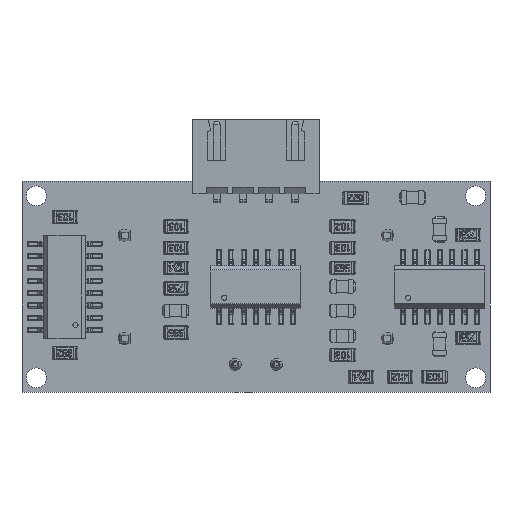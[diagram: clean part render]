
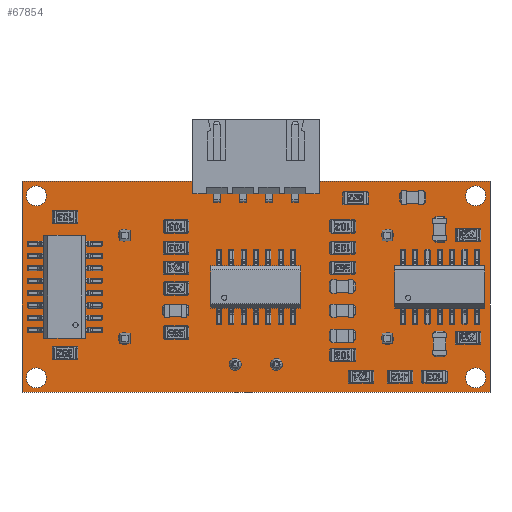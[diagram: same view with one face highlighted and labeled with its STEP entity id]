
A CAD part, front view. The second image highlights one B-rep face of the part: STEP entity #67854.
In plain terms, the highlighted planar face has unit normal (0, -1, 0).
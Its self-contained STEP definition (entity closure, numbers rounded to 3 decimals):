
#1301 = EDGE_LOOP ( 'NONE', ( #130260, #251045, #122099, #221573 ) ) ;
#5284 = CARTESIAN_POINT ( 'NONE',  ( -21.35, 0., 7.875 ) ) ;
#8368 = AXIS2_PLACEMENT_3D ( 'NONE', #237070, #258960, #213849 ) ;
#8747 = FACE_BOUND ( 'NONE', #41200, .T. ) ;
#11166 = DIRECTION ( 'NONE',  ( 0., 1., 0. ) ) ;
#12396 = VERTEX_POINT ( 'NONE', #81494 ) ;
#15319 = EDGE_CURVE ( 'NONE', #66469, #195523, #92039, .T. ) ;
#18544 = CIRCLE ( 'NONE', #51164, 0.975 ) ;
#23051 = EDGE_CURVE ( 'NONE', #162740, #142635, #263769, .T. ) ;
#33783 = ORIENTED_EDGE ( 'NONE', *, *, #151932, .T. ) ;
#35769 = EDGE_CURVE ( 'NONE', #195523, #66469, #166744, .T. ) ;
#41200 = EDGE_LOOP ( 'NONE', ( #33783, #156352 ) ) ;
#43283 = EDGE_CURVE ( 'NONE', #272225, #115277, #168265, .T. ) ;
#46279 = AXIS2_PLACEMENT_3D ( 'NONE', #77269, #53979, #205583 ) ;
#49657 = AXIS2_PLACEMENT_3D ( 'NONE', #267873, #94422, #68228 ) ;
#51164 = AXIS2_PLACEMENT_3D ( 'NONE', #183191, #225472, #272062 ) ;
#52116 = CARTESIAN_POINT ( 'NONE',  ( -21.35, 0., -8.85 ) ) ;
#53979 = DIRECTION ( 'NONE',  ( 0., -1., 0. ) ) ;
#60319 = CARTESIAN_POINT ( 'NONE',  ( -22.75, 0., -10.25 ) ) ;
#62121 = CARTESIAN_POINT ( 'NONE',  ( 21.35, 0., -7.875 ) ) ;
#66469 = VERTEX_POINT ( 'NONE', #62121 ) ;
#66775 = VECTOR ( 'NONE', #82160, 1000. ) ;
#67854 = ADVANCED_FACE ( 'NONE', ( #164816, #253593, #116675, #96292, #8747 ), #72959, .T. ) ;
#68228 = DIRECTION ( 'NONE',  ( 0., 0., -1. ) ) ;
#72043 = CARTESIAN_POINT ( 'NONE',  ( -22.75, 0., 10.25 ) ) ;
#72959 = PLANE ( 'NONE',  #46279 ) ;
#73047 = EDGE_CURVE ( 'NONE', #285957, #12396, #248564, .T. ) ;
#77269 = CARTESIAN_POINT ( 'NONE',  ( 0., 0., 0. ) ) ;
#81494 = CARTESIAN_POINT ( 'NONE',  ( 21.35, 0., 7.875 ) ) ;
#82160 = DIRECTION ( 'NONE',  ( -1., 0., 0. ) ) ;
#91551 = DIRECTION ( 'NONE',  ( 0., 1., 0. ) ) ;
#92039 = CIRCLE ( 'NONE', #8368, 0.975 ) ;
#93942 = VERTEX_POINT ( 'NONE', #266381 ) ;
#94422 = DIRECTION ( 'NONE',  ( 0., 1., 0. ) ) ;
#95822 = DIRECTION ( 'NONE',  ( 0., 0., 1. ) ) ;
#96292 = FACE_BOUND ( 'NONE', #257217, .T. ) ;
#98072 = EDGE_CURVE ( 'NONE', #248100, #240842, #141435, .T. ) ;
#99489 = DIRECTION ( 'NONE',  ( 0., 1., 0. ) ) ;
#104990 = CARTESIAN_POINT ( 'NONE',  ( 22.75, 0., 10.25 ) ) ;
#106328 = LINE ( 'NONE', #241761, #188881 ) ;
#108735 = ORIENTED_EDGE ( 'NONE', *, *, #15319, .T. ) ;
#115277 = VERTEX_POINT ( 'NONE', #143194 ) ;
#115586 = DIRECTION ( 'NONE',  ( 0., 0., -1. ) ) ;
#116572 = ORIENTED_EDGE ( 'NONE', *, *, #23051, .T. ) ;
#116675 = FACE_BOUND ( 'NONE', #246282, .T. ) ;
#120229 = LINE ( 'NONE', #140758, #153228 ) ;
#122099 = ORIENTED_EDGE ( 'NONE', *, *, #240001, .F. ) ;
#129670 = CARTESIAN_POINT ( 'NONE',  ( 21.35, 0., -9.825 ) ) ;
#130260 = ORIENTED_EDGE ( 'NONE', *, *, #252309, .F. ) ;
#132413 = ORIENTED_EDGE ( 'NONE', *, *, #134995, .T. ) ;
#134995 = EDGE_CURVE ( 'NONE', #240842, #248100, #229928, .T. ) ;
#139181 = CARTESIAN_POINT ( 'NONE',  ( -21.35, 0., 9.825 ) ) ;
#140758 = CARTESIAN_POINT ( 'NONE',  ( -22.75, 0., 10.25 ) ) ;
#141435 = CIRCLE ( 'NONE', #248443, 0.975 ) ;
#142352 = AXIS2_PLACEMENT_3D ( 'NONE', #185578, #99489, #115586 ) ;
#142635 = VERTEX_POINT ( 'NONE', #139181 ) ;
#143194 = CARTESIAN_POINT ( 'NONE',  ( -22.75, 0., -10.25 ) ) ;
#143425 = EDGE_LOOP ( 'NONE', ( #278679, #108735 ) ) ;
#146717 = DIRECTION ( 'NONE',  ( 0., 1., 0. ) ) ;
#151932 = EDGE_CURVE ( 'NONE', #12396, #285957, #18544, .T. ) ;
#153228 = VECTOR ( 'NONE', #274727, 1000. ) ;
#156352 = ORIENTED_EDGE ( 'NONE', *, *, #73047, .T. ) ;
#162740 = VERTEX_POINT ( 'NONE', #5284 ) ;
#164816 = FACE_OUTER_BOUND ( 'NONE', #1301, .T. ) ;
#166744 = CIRCLE ( 'NONE', #236585, 0.975 ) ;
#168265 = LINE ( 'NONE', #60319, #66775 ) ;
#175699 = DIRECTION ( 'NONE',  ( 0., 0., -1. ) ) ;
#176442 = DIRECTION ( 'NONE',  ( 0., 0., 1. ) ) ;
#180487 = DIRECTION ( 'NONE',  ( 0., 0., 1. ) ) ;
#183191 = CARTESIAN_POINT ( 'NONE',  ( 21.35, 0., 8.85 ) ) ;
#184291 = DIRECTION ( 'NONE',  ( 0., 0., 1. ) ) ;
#185578 = CARTESIAN_POINT ( 'NONE',  ( -21.35, 0., 8.85 ) ) ;
#188881 = VECTOR ( 'NONE', #200969, 1000. ) ;
#190387 = CARTESIAN_POINT ( 'NONE',  ( 21.35, 0., -8.85 ) ) ;
#190915 = CARTESIAN_POINT ( 'NONE',  ( 21.35, 0., 9.825 ) ) ;
#195523 = VERTEX_POINT ( 'NONE', #129670 ) ;
#198261 = DIRECTION ( 'NONE',  ( 0., 1., 0. ) ) ;
#200969 = DIRECTION ( 'NONE',  ( 0., 0., -1. ) ) ;
#205583 = DIRECTION ( 'NONE',  ( 0., 0., -1. ) ) ;
#207547 = LINE ( 'NONE', #72043, #274835 ) ;
#213806 = ORIENTED_EDGE ( 'NONE', *, *, #98072, .T. ) ;
#213849 = DIRECTION ( 'NONE',  ( 0., 0., -1. ) ) ;
#221573 = ORIENTED_EDGE ( 'NONE', *, *, #43283, .F. ) ;
#223113 = EDGE_CURVE ( 'NONE', #142635, #162740, #267916, .T. ) ;
#223828 = CARTESIAN_POINT ( 'NONE',  ( 22.75, 0., -10.25 ) ) ;
#225472 = DIRECTION ( 'NONE',  ( 0., 1., 0. ) ) ;
#227764 = CARTESIAN_POINT ( 'NONE',  ( -21.35, 0., -9.825 ) ) ;
#229928 = CIRCLE ( 'NONE', #253214, 0.975 ) ;
#230587 = VERTEX_POINT ( 'NONE', #104990 ) ;
#236585 = AXIS2_PLACEMENT_3D ( 'NONE', #190387, #146717, #175699 ) ;
#237070 = CARTESIAN_POINT ( 'NONE',  ( 21.35, 0., -8.85 ) ) ;
#240001 = EDGE_CURVE ( 'NONE', #115277, #93942, #207547, .T. ) ;
#240842 = VERTEX_POINT ( 'NONE', #263341 ) ;
#241761 = CARTESIAN_POINT ( 'NONE',  ( 22.75, 0., 10.25 ) ) ;
#246282 = EDGE_LOOP ( 'NONE', ( #213806, #132413 ) ) ;
#248100 = VERTEX_POINT ( 'NONE', #227764 ) ;
#248443 = AXIS2_PLACEMENT_3D ( 'NONE', #52116, #91551, #180487 ) ;
#248564 = CIRCLE ( 'NONE', #276434, 0.975 ) ;
#251045 = ORIENTED_EDGE ( 'NONE', *, *, #285671, .F. ) ;
#252309 = EDGE_CURVE ( 'NONE', #230587, #272225, #106328, .T. ) ;
#253214 = AXIS2_PLACEMENT_3D ( 'NONE', #285766, #198261, #176442 ) ;
#253593 = FACE_BOUND ( 'NONE', #143425, .T. ) ;
#257217 = EDGE_LOOP ( 'NONE', ( #116572, #266788 ) ) ;
#258960 = DIRECTION ( 'NONE',  ( 0., 1., 0. ) ) ;
#263341 = CARTESIAN_POINT ( 'NONE',  ( -21.35, 0., -7.875 ) ) ;
#263769 = CIRCLE ( 'NONE', #49657, 0.975 ) ;
#266381 = CARTESIAN_POINT ( 'NONE',  ( -22.75, 0., 10.25 ) ) ;
#266788 = ORIENTED_EDGE ( 'NONE', *, *, #223113, .T. ) ;
#267873 = CARTESIAN_POINT ( 'NONE',  ( -21.35, 0., 8.85 ) ) ;
#267916 = CIRCLE ( 'NONE', #142352, 0.975 ) ;
#272062 = DIRECTION ( 'NONE',  ( 0., 0., 1. ) ) ;
#272225 = VERTEX_POINT ( 'NONE', #223828 ) ;
#273589 = CARTESIAN_POINT ( 'NONE',  ( 21.35, 0., 8.85 ) ) ;
#274727 = DIRECTION ( 'NONE',  ( 1., 0., 0. ) ) ;
#274835 = VECTOR ( 'NONE', #184291, 1000. ) ;
#276434 = AXIS2_PLACEMENT_3D ( 'NONE', #273589, #11166, #95822 ) ;
#278679 = ORIENTED_EDGE ( 'NONE', *, *, #35769, .T. ) ;
#285671 = EDGE_CURVE ( 'NONE', #93942, #230587, #120229, .T. ) ;
#285766 = CARTESIAN_POINT ( 'NONE',  ( -21.35, 0., -8.85 ) ) ;
#285957 = VERTEX_POINT ( 'NONE', #190915 ) ;
